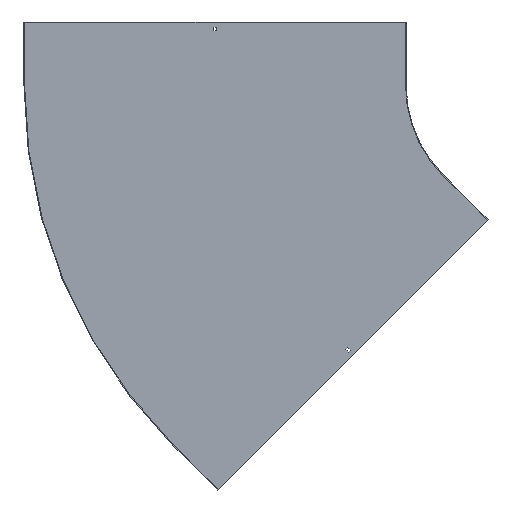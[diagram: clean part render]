
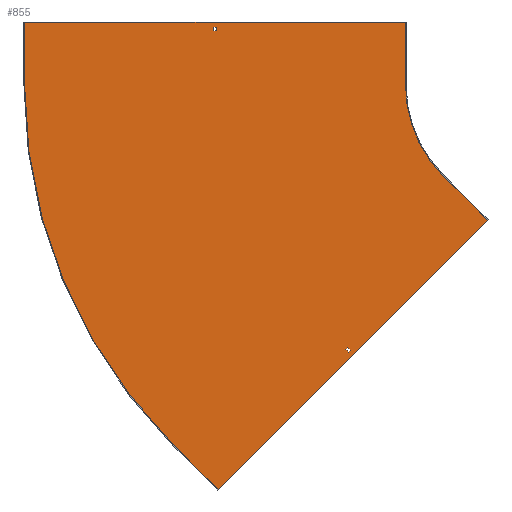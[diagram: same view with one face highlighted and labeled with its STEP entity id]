
A CAD part, front view. The second image highlights one B-rep face of the part: STEP entity #855.
In plain terms, the highlighted planar face has unit normal (0, -1, 0).
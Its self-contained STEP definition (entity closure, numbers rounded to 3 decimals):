
#2 = EDGE_CURVE ( 'NONE', #449, #745, #272, .T. ) ;
#9 = ORIENTED_EDGE ( 'NONE', *, *, #444, .F. ) ;
#18 = ORIENTED_EDGE ( 'NONE', *, *, #229, .F. ) ;
#31 = DIRECTION ( 'NONE',  ( 0., 0., -1. ) ) ;
#38 = FACE_BOUND ( 'NONE', #504, .T. ) ;
#43 = EDGE_CURVE ( 'NONE', #190, #800, #246, .T. ) ;
#52 = ORIENTED_EDGE ( 'NONE', *, *, #826, .F. ) ;
#57 = VERTEX_POINT ( 'NONE', #258 ) ;
#74 = LINE ( 'NONE', #316, #585 ) ;
#82 = CARTESIAN_POINT ( 'NONE',  ( -742.462, -1.5, -954.594 ) ) ;
#86 = CARTESIAN_POINT ( 'NONE',  ( -742.462, -1.5, -954.594 ) ) ;
#87 = ORIENTED_EDGE ( 'NONE', *, *, #97, .F. ) ;
#90 = DIRECTION ( 'NONE',  ( 0., 0., -1. ) ) ;
#97 = EDGE_CURVE ( 'NONE', #152, #806, #814, .T. ) ;
#98 = FACE_OUTER_BOUND ( 'NONE', #743, .T. ) ;
#100 = CARTESIAN_POINT ( 'NONE',  ( -106.066, -1.5, -318.198 ) ) ;
#101 = VERTEX_POINT ( 'NONE', #731 ) ;
#102 = CARTESIAN_POINT ( 'NONE',  ( 0., -1.5, 0. ) ) ;
#119 = VECTOR ( 'NONE', #777, 1000. ) ;
#121 = CIRCLE ( 'NONE', #350, 1200. ) ;
#122 = VERTEX_POINT ( 'NONE', #614 ) ;
#125 = CARTESIAN_POINT ( 'NONE',  ( -528.032, -1.5, -528.032 ) ) ;
#130 = LINE ( 'NONE', #613, #693 ) ;
#131 = CARTESIAN_POINT ( 'NONE',  ( 0., -1.5, 129. ) ) ;
#134 = LINE ( 'NONE', #663, #707 ) ;
#146 = LINE ( 'NONE', #215, #314 ) ;
#150 = CARTESIAN_POINT ( 'NONE',  ( 0., -1.5, 0. ) ) ;
#152 = VERTEX_POINT ( 'NONE', #86 ) ;
#157 = DIRECTION ( 'NONE',  ( 0., 0., 1. ) ) ;
#164 = EDGE_CURVE ( 'NONE', #745, #312, #134, .T. ) ;
#165 = PLANE ( 'NONE',  #578 ) ;
#169 = VECTOR ( 'NONE', #332, 1000. ) ;
#186 = ORIENTED_EDGE ( 'NONE', *, *, #2, .T. ) ;
#189 = VERTEX_POINT ( 'NONE', #268 ) ;
#190 = VERTEX_POINT ( 'NONE', #674 ) ;
#193 = DIRECTION ( 'NONE',  ( 0.707, 0., -0.707 ) ) ;
#201 = EDGE_CURVE ( 'NONE', #101, #57, #130, .T. ) ;
#215 = CARTESIAN_POINT ( 'NONE',  ( -1201.5, -1.5, 150. ) ) ;
#216 = LINE ( 'NONE', #627, #421 ) ;
#217 = FACE_BOUND ( 'NONE', #435, .T. ) ;
#220 = VECTOR ( 'NONE', #394, 1000. ) ;
#223 = VERTEX_POINT ( 'NONE', #273 ) ;
#229 = EDGE_CURVE ( 'NONE', #800, #122, #261, .T. ) ;
#231 = DIRECTION ( 'NONE',  ( 0., 0., -1. ) ) ;
#246 = LINE ( 'NONE', #588, #666 ) ;
#255 = LINE ( 'NONE', #387, #691 ) ;
#258 = CARTESIAN_POINT ( 'NONE',  ( -300., -1.5, 0. ) ) ;
#261 = LINE ( 'NONE', #125, #169 ) ;
#268 = CARTESIAN_POINT ( 'NONE',  ( -212.132, -1.5, -212.132 ) ) ;
#270 = CARTESIAN_POINT ( 'NONE',  ( -441.411, -1.5, -623.845 ) ) ;
#272 = LINE ( 'NONE', #518, #470 ) ;
#273 = CARTESIAN_POINT ( 'NONE',  ( -1200., -1.5, 0. ) ) ;
#280 = ORIENTED_EDGE ( 'NONE', *, *, #366, .T. ) ;
#282 = CARTESIAN_POINT ( 'NONE',  ( -746.75, -1.5, 138. ) ) ;
#286 = EDGE_CURVE ( 'NONE', #308, #101, #146, .T. ) ;
#287 = ORIENTED_EDGE ( 'NONE', *, *, #201, .F. ) ;
#293 = CARTESIAN_POINT ( 'NONE',  ( -430.451, -1.5, -625.613 ) ) ;
#308 = VERTEX_POINT ( 'NONE', #343 ) ;
#312 = VERTEX_POINT ( 'NONE', #282 ) ;
#314 = VECTOR ( 'NONE', #502, 1000. ) ;
#316 = CARTESIAN_POINT ( 'NONE',  ( -1200., -1.5, 0. ) ) ;
#326 = LINE ( 'NONE', #131, #349 ) ;
#330 = ORIENTED_EDGE ( 'NONE', *, *, #662, .F. ) ;
#332 = DIRECTION ( 'NONE',  ( -0.707, 0., 0.707 ) ) ;
#343 = CARTESIAN_POINT ( 'NONE',  ( -1200., -1.5, 150. ) ) ;
#345 = DIRECTION ( 'NONE',  ( 0., -1., 0. ) ) ;
#349 = VECTOR ( 'NONE', #730, 1000. ) ;
#350 = AXIS2_PLACEMENT_3D ( 'NONE', #751, #416, #31 ) ;
#359 = DIRECTION ( 'NONE',  ( 0., -1., 0. ) ) ;
#366 = EDGE_CURVE ( 'NONE', #712, #449, #326, .T. ) ;
#383 = VERTEX_POINT ( 'NONE', #270 ) ;
#386 = AXIS2_PLACEMENT_3D ( 'NONE', #102, #359, #633 ) ;
#387 = CARTESIAN_POINT ( 'NONE',  ( -532.628, -1.5, -532.628 ) ) ;
#394 = DIRECTION ( 'NONE',  ( -0.707, 0., 0.707 ) ) ;
#411 = ORIENTED_EDGE ( 'NONE', *, *, #606, .F. ) ;
#416 = DIRECTION ( 'NONE',  ( 0., 1., 0. ) ) ;
#421 = VECTOR ( 'NONE', #492, 1000. ) ;
#426 = CARTESIAN_POINT ( 'NONE',  ( -746.75, -1.5, 0. ) ) ;
#428 = EDGE_CURVE ( 'NONE', #763, #152, #216, .T. ) ;
#433 = VECTOR ( 'NONE', #231, 1000. ) ;
#435 = EDGE_LOOP ( 'NONE', ( #18, #852, #330, #570 ) ) ;
#436 = LINE ( 'NONE', #577, #446 ) ;
#439 = ORIENTED_EDGE ( 'NONE', *, *, #286, .F. ) ;
#444 = EDGE_CURVE ( 'NONE', #806, #223, #121, .T. ) ;
#446 = VECTOR ( 'NONE', #786, 1000. ) ;
#449 = VERTEX_POINT ( 'NONE', #688 ) ;
#456 = DIRECTION ( 'NONE',  ( 0., 0., -1. ) ) ;
#470 = VECTOR ( 'NONE', #157, 1000. ) ;
#489 = CARTESIAN_POINT ( 'NONE',  ( -746.75, -1.5, 129. ) ) ;
#492 = DIRECTION ( 'NONE',  ( -0.707, 0., -0.707 ) ) ;
#501 = CARTESIAN_POINT ( 'NONE',  ( -848.528, -1.5, -848.528 ) ) ;
#502 = DIRECTION ( 'NONE',  ( 1., 0., 0. ) ) ;
#504 = EDGE_LOOP ( 'NONE', ( #512, #696, #280, #186 ) ) ;
#509 = EDGE_CURVE ( 'NONE', #122, #383, #694, .T. ) ;
#510 = ORIENTED_EDGE ( 'NONE', *, *, #575, .F. ) ;
#512 = ORIENTED_EDGE ( 'NONE', *, *, #164, .T. ) ;
#518 = CARTESIAN_POINT ( 'NONE',  ( -753.25, -1.5, 0. ) ) ;
#538 = DIRECTION ( 'NONE',  ( 0.707, 0., 0.707 ) ) ;
#570 = ORIENTED_EDGE ( 'NONE', *, *, #509, .F. ) ;
#575 = EDGE_CURVE ( 'NONE', #57, #189, #837, .T. ) ;
#577 = CARTESIAN_POINT ( 'NONE',  ( -212.132, -1.5, -212.132 ) ) ;
#578 = AXIS2_PLACEMENT_3D ( 'NONE', #150, #345, #90 ) ;
#585 = VECTOR ( 'NONE', #608, 1000. ) ;
#587 = ORIENTED_EDGE ( 'NONE', *, *, #428, .F. ) ;
#588 = CARTESIAN_POINT ( 'NONE',  ( 97.581, -1.5, -97.581 ) ) ;
#606 = EDGE_CURVE ( 'NONE', #223, #308, #74, .T. ) ;
#608 = DIRECTION ( 'NONE',  ( 0., 0., 1. ) ) ;
#613 = CARTESIAN_POINT ( 'NONE',  ( -300., -1.5, 150. ) ) ;
#614 = CARTESIAN_POINT ( 'NONE',  ( -436.815, -1.5, -619.249 ) ) ;
#627 = CARTESIAN_POINT ( 'NONE',  ( -105.005, -1.5, -317.137 ) ) ;
#633 = DIRECTION ( 'NONE',  ( 0., 0., -1. ) ) ;
#662 = EDGE_CURVE ( 'NONE', #383, #190, #255, .T. ) ;
#663 = CARTESIAN_POINT ( 'NONE',  ( 0., -1.5, 138. ) ) ;
#666 = VECTOR ( 'NONE', #538, 1000. ) ;
#674 = CARTESIAN_POINT ( 'NONE',  ( -435.047, -1.5, -630.209 ) ) ;
#688 = CARTESIAN_POINT ( 'NONE',  ( -753.25, -1.5, 129. ) ) ;
#691 = VECTOR ( 'NONE', #193, 1000. ) ;
#693 = VECTOR ( 'NONE', #456, 1000. ) ;
#694 = LINE ( 'NONE', #789, #119 ) ;
#696 = ORIENTED_EDGE ( 'NONE', *, *, #843, .T. ) ;
#697 = CARTESIAN_POINT ( 'NONE',  ( -753.25, -1.5, 138. ) ) ;
#707 = VECTOR ( 'NONE', #804, 1000. ) ;
#712 = VERTEX_POINT ( 'NONE', #489 ) ;
#730 = DIRECTION ( 'NONE',  ( -1., 0., 0. ) ) ;
#731 = CARTESIAN_POINT ( 'NONE',  ( -300., -1.5, 150. ) ) ;
#743 = EDGE_LOOP ( 'NONE', ( #439, #411, #9, #87, #587, #52, #510, #287 ) ) ;
#745 = VERTEX_POINT ( 'NONE', #697 ) ;
#751 = CARTESIAN_POINT ( 'NONE',  ( 0., -1.5, 0. ) ) ;
#758 = LINE ( 'NONE', #426, #433 ) ;
#763 = VERTEX_POINT ( 'NONE', #100 ) ;
#777 = DIRECTION ( 'NONE',  ( -0.707, 0., -0.707 ) ) ;
#786 = DIRECTION ( 'NONE',  ( 0.707, 0., -0.707 ) ) ;
#789 = CARTESIAN_POINT ( 'NONE',  ( 91.217, -1.5, -91.217 ) ) ;
#800 = VERTEX_POINT ( 'NONE', #293 ) ;
#804 = DIRECTION ( 'NONE',  ( 1., 0., 0. ) ) ;
#806 = VERTEX_POINT ( 'NONE', #501 ) ;
#814 = LINE ( 'NONE', #82, #220 ) ;
#826 = EDGE_CURVE ( 'NONE', #189, #763, #436, .T. ) ;
#837 = CIRCLE ( 'NONE', #386, 300. ) ;
#843 = EDGE_CURVE ( 'NONE', #312, #712, #758, .T. ) ;
#852 = ORIENTED_EDGE ( 'NONE', *, *, #43, .F. ) ;
#855 = ADVANCED_FACE ( 'NONE', ( #217, #98, #38 ), #165, .T. ) ;
